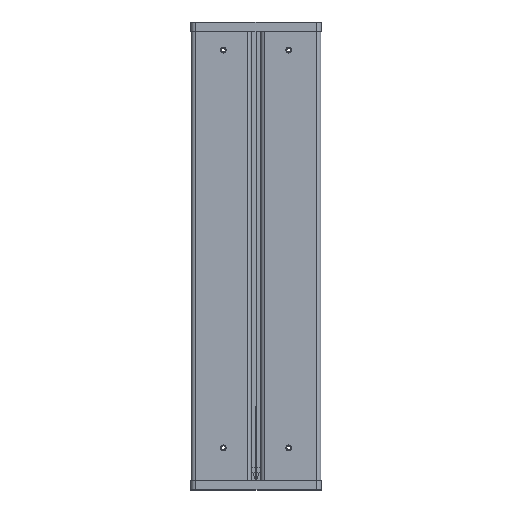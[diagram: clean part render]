
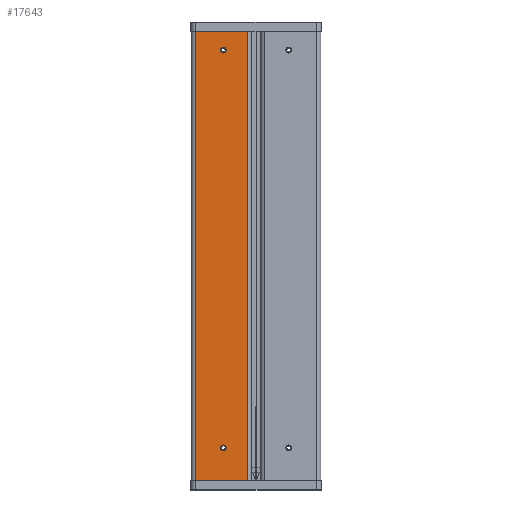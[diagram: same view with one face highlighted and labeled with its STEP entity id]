
A CAD part, left-side view. The second image highlights one B-rep face of the part: STEP entity #17643.
In plain terms, the highlighted planar face has unit normal (-1, 0, 0).
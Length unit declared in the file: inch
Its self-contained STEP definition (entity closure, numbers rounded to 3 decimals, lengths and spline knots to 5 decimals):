
#53 = ORIENTED_EDGE ( 'NONE', *, *, #26745, .F. ) ;
#800 = CARTESIAN_POINT ( 'NONE',  ( -4.21, 0.11, 6. ) ) ;
#1278 = DIRECTION ( 'NONE',  ( -1., 0., 0. ) ) ;
#1385 = CARTESIAN_POINT ( 'NONE',  ( -4.21, 1.49, -6. ) ) ;
#1441 = ORIENTED_EDGE ( 'NONE', *, *, #18558, .T. ) ;
#4286 = EDGE_LOOP ( 'NONE', ( #53, #18380 ) ) ;
#4476 = EDGE_CURVE ( 'NONE', #19857, #18111, #27467, .T. ) ;
#4798 = CARTESIAN_POINT ( 'NONE',  ( -4.21, 0.855, -5.5 ) ) ;
#6456 = ORIENTED_EDGE ( 'NONE', *, *, #14889, .F. ) ;
#7053 = FACE_OUTER_BOUND ( 'NONE', #26186, .T. ) ;
#7246 = DIRECTION ( 'NONE',  ( -1., 0., 0. ) ) ;
#7691 = VERTEX_POINT ( 'NONE', #18669 ) ;
#8328 = LINE ( 'NONE', #27468, #20858 ) ;
#8548 = EDGE_CURVE ( 'NONE', #34165, #7691, #14720, .T. ) ;
#8810 = VECTOR ( 'NONE', #32562, 39.37008 ) ;
#9081 = VERTEX_POINT ( 'NONE', #15498 ) ;
#9678 = CIRCLE ( 'NONE', #29769, 0.078 ) ;
#10106 = DIRECTION ( 'NONE',  ( 0., 0., -1. ) ) ;
#11108 = ORIENTED_EDGE ( 'NONE', *, *, #18167, .F. ) ;
#11598 = DIRECTION ( 'NONE',  ( 0., 0., 1. ) ) ;
#12725 = LINE ( 'NONE', #34049, #13335 ) ;
#12788 = DIRECTION ( 'NONE',  ( 0., 0., -1. ) ) ;
#13160 = ORIENTED_EDGE ( 'NONE', *, *, #27870, .T. ) ;
#13335 = VECTOR ( 'NONE', #10106, 39.37008 ) ;
#13643 = LINE ( 'NONE', #27576, #21902 ) ;
#14720 = CIRCLE ( 'NONE', #28051, 0.078 ) ;
#14871 = DIRECTION ( 'NONE',  ( 0., 0., 1. ) ) ;
#14889 = EDGE_CURVE ( 'NONE', #29788, #19857, #13643, .T. ) ;
#15396 = DIRECTION ( 'NONE',  ( 0., 0., 1. ) ) ;
#15401 = DIRECTION ( 'NONE',  ( 1., 0., 0. ) ) ;
#15498 = CARTESIAN_POINT ( 'NONE',  ( -4.21, 0.855, -5.578 ) ) ;
#16160 = DIRECTION ( 'NONE',  ( 0., -1., 0. ) ) ;
#16786 = VERTEX_POINT ( 'NONE', #1385 ) ;
#16816 = DIRECTION ( 'NONE',  ( -1., 0., 0. ) ) ;
#17164 = CARTESIAN_POINT ( 'NONE',  ( -4.21, 0.855, 5.125 ) ) ;
#17643 = ADVANCED_FACE ( 'Face6', ( #30960, #33935, #7053 ), #20636, .F. ) ;
#17673 = CARTESIAN_POINT ( 'NONE',  ( -4.21, 1.6, 6. ) ) ;
#18111 = VERTEX_POINT ( 'NONE', #33440 ) ;
#18167 = EDGE_CURVE ( 'NONE', #9081, #19339, #19988, .T. ) ;
#18380 = ORIENTED_EDGE ( 'NONE', *, *, #8548, .F. ) ;
#18519 = AXIS2_PLACEMENT_3D ( 'NONE', #23259, #33753, #15396 ) ;
#18558 = EDGE_CURVE ( 'NONE', #29788, #16786, #12725, .T. ) ;
#18669 = CARTESIAN_POINT ( 'NONE',  ( -4.21, 0.855, 5.203 ) ) ;
#19339 = VERTEX_POINT ( 'NONE', #25879 ) ;
#19857 = VERTEX_POINT ( 'NONE', #21139 ) ;
#19988 = CIRCLE ( 'NONE', #27231, 0.078 ) ;
#20636 = PLANE ( 'NONE',  #33923 ) ;
#20858 = VECTOR ( 'NONE', #16160, 39.37008 ) ;
#21139 = CARTESIAN_POINT ( 'NONE',  ( -4.21, 0.11, 6. ) ) ;
#21902 = VECTOR ( 'NONE', #22354, 39.37008 ) ;
#22354 = DIRECTION ( 'NONE',  ( 0., -1., 0. ) ) ;
#23259 = CARTESIAN_POINT ( 'NONE',  ( -4.21, 0.855, -5.5 ) ) ;
#23626 = DIRECTION ( 'NONE',  ( 0., 0., 1. ) ) ;
#25171 = CARTESIAN_POINT ( 'NONE',  ( -4.21, 0.855, 5.125 ) ) ;
#25879 = CARTESIAN_POINT ( 'NONE',  ( -4.21, 0.855, -5.422 ) ) ;
#26186 = EDGE_LOOP ( 'NONE', ( #13160, #33342, #6456, #1441 ) ) ;
#26745 = EDGE_CURVE ( 'NONE', #7691, #34165, #9678, .T. ) ;
#26913 = EDGE_LOOP ( 'NONE', ( #30240, #11108 ) ) ;
#27231 = AXIS2_PLACEMENT_3D ( 'NONE', #4798, #7246, #23626 ) ;
#27467 = LINE ( 'NONE', #800, #8810 ) ;
#27468 = CARTESIAN_POINT ( 'NONE',  ( -4.21, 1.6, -6. ) ) ;
#27576 = CARTESIAN_POINT ( 'NONE',  ( -4.21, 1.6, 6. ) ) ;
#27870 = EDGE_CURVE ( 'NONE', #16786, #18111, #8328, .T. ) ;
#28051 = AXIS2_PLACEMENT_3D ( 'NONE', #25171, #1278, #14871 ) ;
#28829 = CARTESIAN_POINT ( 'NONE',  ( -4.21, 0.855, 5.047 ) ) ;
#29769 = AXIS2_PLACEMENT_3D ( 'NONE', #17164, #16816, #11598 ) ;
#29788 = VERTEX_POINT ( 'NONE', #32892 ) ;
#29885 = EDGE_CURVE ( 'NONE', #19339, #9081, #33602, .T. ) ;
#30240 = ORIENTED_EDGE ( 'NONE', *, *, #29885, .F. ) ;
#30960 = FACE_BOUND ( 'NONE', #26913, .T. ) ;
#32562 = DIRECTION ( 'NONE',  ( 0., 0., -1. ) ) ;
#32892 = CARTESIAN_POINT ( 'NONE',  ( -4.21, 1.49, 6. ) ) ;
#33342 = ORIENTED_EDGE ( 'NONE', *, *, #4476, .F. ) ;
#33440 = CARTESIAN_POINT ( 'NONE',  ( -4.21, 0.11, -6. ) ) ;
#33602 = CIRCLE ( 'NONE', #18519, 0.078 ) ;
#33753 = DIRECTION ( 'NONE',  ( -1., 0., 0. ) ) ;
#33923 = AXIS2_PLACEMENT_3D ( 'NONE', #17673, #15401, #12788 ) ;
#33935 = FACE_BOUND ( 'NONE', #4286, .T. ) ;
#34049 = CARTESIAN_POINT ( 'NONE',  ( -4.21, 1.49, 6. ) ) ;
#34165 = VERTEX_POINT ( 'NONE', #28829 ) ;
